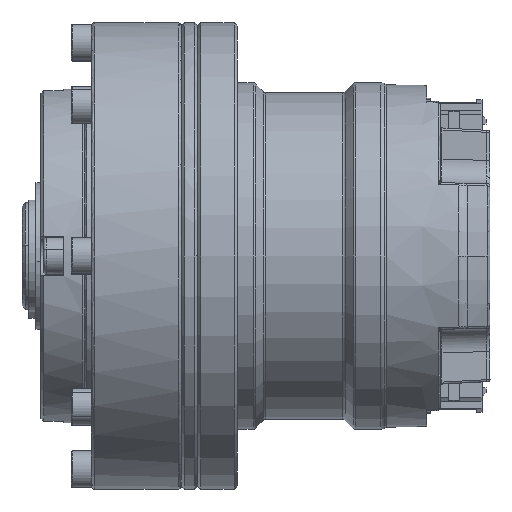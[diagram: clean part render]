
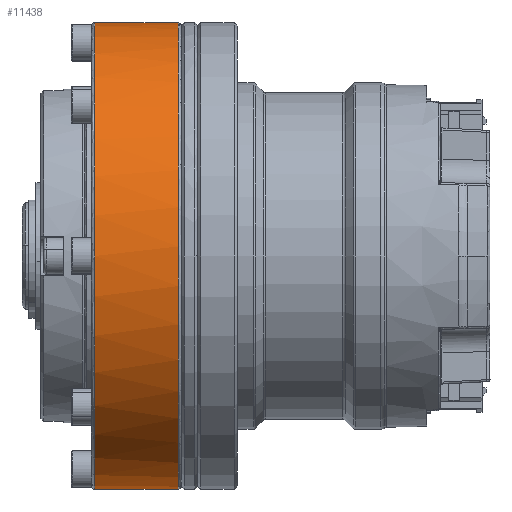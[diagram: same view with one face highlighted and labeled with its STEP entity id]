
A CAD part, left-side view. The second image highlights one B-rep face of the part: STEP entity #11438.
In plain terms, the highlighted cylindrical face has radius 35 mm (diameter 70 mm), a partial arc.
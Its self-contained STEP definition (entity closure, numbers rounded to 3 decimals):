
#10 = VERTEX_POINT ( 'NONE', #8332 ) ;
#5515 = CARTESIAN_POINT ( 'NONE',  ( 0., -0.6, 0. ) ) ;
#6498 = CARTESIAN_POINT ( 'NONE',  ( -70., -0.1, -35. ) ) ;
#7077 = VERTEX_POINT ( 'NONE', #96699 ) ;
#8332 = CARTESIAN_POINT ( 'NONE',  ( 0., -0.1, -35. ) ) ;
#9479 = DIRECTION ( 'NONE',  ( 0., -1., 0. ) ) ;
#10169 = CARTESIAN_POINT ( 'NONE',  ( 0., -0.6, -35. ) ) ;
#11099 = EDGE_CURVE ( 'NONE', #45772, #10, #27618, .T. ) ;
#11438 = ADVANCED_FACE ( 'NONE', ( #29296 ), #126115, .T. ) ;
#15895 = CARTESIAN_POINT ( 'NONE',  ( 0., -0.1, 35. ) ) ;
#16131 = DIRECTION ( 'NONE',  ( 0., 0., 1. ) ) ;
#22212 = ORIENTED_EDGE ( 'NONE', *, *, #70360, .T. ) ;
#27618 = LINE ( 'NONE', #10169, #54956 ) ;
#28863 = CARTESIAN_POINT ( 'NONE',  ( 0., 12.4, 35. ) ) ;
#29296 = FACE_OUTER_BOUND ( 'NONE', #57047, .T. ) ;
#36220 = DIRECTION ( 'NONE',  ( 0., -1., 0. ) ) ;
#38182 = EDGE_CURVE ( 'NONE', #114256, #7077, #77187, .T. ) ;
#45772 = VERTEX_POINT ( 'NONE', #112634 ) ;
#46451 = CARTESIAN_POINT ( 'NONE',  ( 0., -0.6, 35. ) ) ;
#50470 = ORIENTED_EDGE ( 'NONE', *, *, #11099, .T. ) ;
#54956 = VECTOR ( 'NONE', #96073, 1000. ) ;
#57047 = EDGE_LOOP ( 'NONE', ( #22212, #50470, #99772, #67353 ) ) ;
#60767 = EDGE_CURVE ( 'NONE', #10, #7077, #85219, .T. ) ;
#65125 = CARTESIAN_POINT ( 'NONE',  ( 0., -0.1, -35. ) ) ;
#67353 = ORIENTED_EDGE ( 'NONE', *, *, #38182, .F. ) ;
#70360 = EDGE_CURVE ( 'NONE', #114256, #45772, #74941, .T. ) ;
#74941 = CIRCLE ( 'NONE', #116700, 35. ) ;
#77187 = LINE ( 'NONE', #46451, #98488 ) ;
#80758 = AXIS2_PLACEMENT_3D ( 'NONE', #5515, #83708, #16131 ) ;
#83708 = DIRECTION ( 'NONE',  ( 0., -1., 0. ) ) ;
#84628 = DIRECTION ( 'NONE',  ( -1., 0., 0. ) ) ;
#85219 =( BOUNDED_CURVE ( )  B_SPLINE_CURVE ( 3, ( #65125, #6498, #103474, #15895 ),
 .UNSPECIFIED., .F., .F. ) 
 B_SPLINE_CURVE_WITH_KNOTS ( ( 4, 4 ),
 ( 0., 208.939 ),
 .UNSPECIFIED. ) 
 CURVE ( )  GEOMETRIC_REPRESENTATION_ITEM ( )  RATIONAL_B_SPLINE_CURVE ( ( 1., 0.333, 0.333, 1. ) ) 
 REPRESENTATION_ITEM ( '' )  );
#93629 = CARTESIAN_POINT ( 'NONE',  ( 0., 12.4, 0. ) ) ;
#96073 = DIRECTION ( 'NONE',  ( 0., -1., 0. ) ) ;
#96699 = CARTESIAN_POINT ( 'NONE',  ( 0., -0.1, 35. ) ) ;
#98488 = VECTOR ( 'NONE', #9479, 1000. ) ;
#99772 = ORIENTED_EDGE ( 'NONE', *, *, #60767, .T. ) ;
#103474 = CARTESIAN_POINT ( 'NONE',  ( -70., -0.1, 35. ) ) ;
#112634 = CARTESIAN_POINT ( 'NONE',  ( 0., 12.4, -35. ) ) ;
#114256 = VERTEX_POINT ( 'NONE', #28863 ) ;
#116700 = AXIS2_PLACEMENT_3D ( 'NONE', #93629, #36220, #84628 ) ;
#126115 = CYLINDRICAL_SURFACE ( 'NONE', #80758, 35. ) ;
